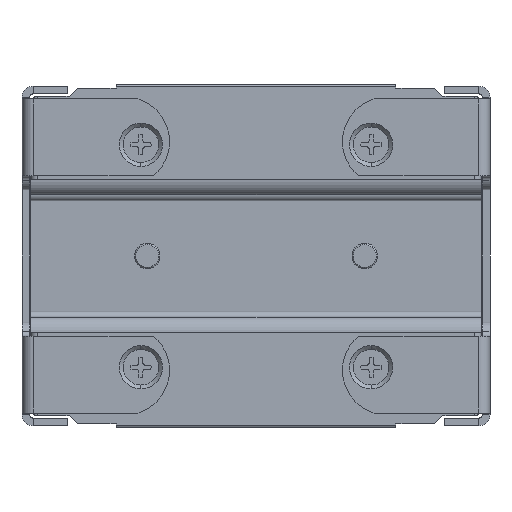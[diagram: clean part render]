
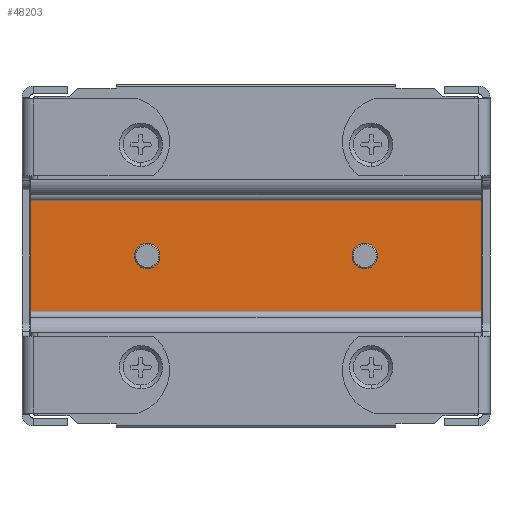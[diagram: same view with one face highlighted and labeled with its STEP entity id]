
A CAD part, front view. The second image highlights one B-rep face of the part: STEP entity #48203.
In plain terms, the highlighted planar face has unit normal (0, -1, 0).
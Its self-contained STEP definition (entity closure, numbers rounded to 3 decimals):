
#2273 = CARTESIAN_POINT ( 'NONE',  ( -58.55, 7.5, -1. ) ) ;
#2274 = CARTESIAN_POINT ( 'NONE',  ( -58.55, 7.5, 1. ) ) ;
#2275 = DIRECTION ( 'NONE',  ( 0., 0., 1. ) ) ;
#2276 = DIRECTION ( 'NONE',  ( 0., -1., 0. ) ) ;
#2277 = CARTESIAN_POINT ( 'NONE',  ( -58.55, 7.5, 0. ) ) ;
#2278 = AXIS2_PLACEMENT_3D ( 'NONE', #2277, #2276, #2275 ) ;
#2279 = CIRCLE ( 'NONE', #2278, 1. ) ;
#2467 = CARTESIAN_POINT ( 'NONE',  ( -41.45, 7.5, -1. ) ) ;
#2486 = DIRECTION ( 'NONE',  ( 0., 0., 1. ) ) ;
#2487 = DIRECTION ( 'NONE',  ( 0., -1., 0. ) ) ;
#2488 = CARTESIAN_POINT ( 'NONE',  ( -41.45, 7.5, 0. ) ) ;
#2489 = AXIS2_PLACEMENT_3D ( 'NONE', #2488, #2487, #2486 ) ;
#2490 = CIRCLE ( 'NONE', #2489, 1. ) ;
#2504 = CARTESIAN_POINT ( 'NONE',  ( -41.45, 7.5, 1. ) ) ;
#20626 = CARTESIAN_POINT ( 'NONE',  ( -32.3, 7.5, 5.7 ) ) ;
#22071 = CARTESIAN_POINT ( 'NONE',  ( -32.3, 7.5, -5.7 ) ) ;
#22624 = DIRECTION ( 'NONE',  ( 0., 0., 1. ) ) ;
#22625 = VECTOR ( 'NONE', #22624, 1000. ) ;
#22626 = CARTESIAN_POINT ( 'NONE',  ( -32.3, 7.5, -6. ) ) ;
#22627 = LINE ( 'NONE', #22626, #22625 ) ;
#23992 = DIRECTION ( 'NONE',  ( 0., 0., -1. ) ) ;
#23993 = VECTOR ( 'NONE', #23992, 1000. ) ;
#23994 = CARTESIAN_POINT ( 'NONE',  ( -67.7, 7.5, -6. ) ) ;
#23995 = LINE ( 'NONE', #23994, #23993 ) ;
#23996 = CARTESIAN_POINT ( 'NONE',  ( -67.7, 7.5, -5.7 ) ) ;
#24106 = CARTESIAN_POINT ( 'NONE',  ( -67.7, 7.5, 5.7 ) ) ;
#26362 = DIRECTION ( 'NONE',  ( 0., 0., 1. ) ) ;
#26363 = DIRECTION ( 'NONE',  ( 0., -1., 0. ) ) ;
#26364 = CARTESIAN_POINT ( 'NONE',  ( -41.45, 7.5, 0. ) ) ;
#26365 = AXIS2_PLACEMENT_3D ( 'NONE', #26364, #26363, #26362 ) ;
#26366 = CIRCLE ( 'NONE', #26365, 1. ) ;
#29607 = CARTESIAN_POINT ( 'NONE',  ( -58.55, 7.5, 0. ) ) ;
#29608 = AXIS2_PLACEMENT_3D ( 'NONE', #29607, #29676, #29675 ) ;
#29609 = CIRCLE ( 'NONE', #29608, 1. ) ;
#29675 = DIRECTION ( 'NONE',  ( 0., 0., 1. ) ) ;
#29676 = DIRECTION ( 'NONE',  ( 0., -1., 0. ) ) ;
#30728 = CARTESIAN_POINT ( 'NONE',  ( -32.3, 7.5, -5.7 ) ) ;
#30773 = DIRECTION ( 'NONE',  ( 0., 0., 1. ) ) ;
#30774 = DIRECTION ( 'NONE',  ( 0., 1., 0. ) ) ;
#30775 = CARTESIAN_POINT ( 'NONE',  ( -34.25, 7.5, 0. ) ) ;
#30776 = AXIS2_PLACEMENT_3D ( 'NONE', #30775, #30774, #30773 ) ;
#30777 = PLANE ( 'NONE',  #30776 ) ;
#30778 = FACE_OUTER_BOUND ( 'NONE', #48197, .T. ) ;
#30779 = FACE_BOUND ( 'NONE', #48205, .T. ) ;
#30780 = FACE_BOUND ( 'NONE', #48067, .T. ) ;
#30781 = DIRECTION ( 'NONE',  ( -1., 0., 0. ) ) ;
#30782 = VECTOR ( 'NONE', #30781, 1000. ) ;
#30783 = CARTESIAN_POINT ( 'NONE',  ( -67.7, 7.5, 5.7 ) ) ;
#30784 = LINE ( 'NONE', #30783, #30782 ) ;
#30785 = DIRECTION ( 'NONE',  ( 1., 0., 0. ) ) ;
#30786 = VECTOR ( 'NONE', #30785, 1000. ) ;
#30798 = LINE ( 'NONE', #30728, #30786 ) ;
#45317 = VERTEX_POINT ( 'NONE', #20626 ) ;
#45581 = VERTEX_POINT ( 'NONE', #22071 ) ;
#45769 = EDGE_CURVE ( 'NONE', #45581, #45317, #22627, .T. ) ;
#46245 = VERTEX_POINT ( 'NONE', #23996 ) ;
#46247 = EDGE_CURVE ( 'NONE', #46301, #46245, #23995, .T. ) ;
#46301 = VERTEX_POINT ( 'NONE', #24106 ) ;
#46939 = EDGE_CURVE ( 'NONE', #49687, #49699, #26366, .T. ) ;
#47793 = EDGE_CURVE ( 'NONE', #49579, #49578, #29609, .T. ) ;
#48066 = ORIENTED_EDGE ( 'NONE', *, *, #49676, .F. ) ;
#48067 = EDGE_LOOP ( 'NONE', ( #48066, #48206 ) ) ;
#48191 = ORIENTED_EDGE ( 'NONE', *, *, #47793, .F. ) ;
#48192 = ORIENTED_EDGE ( 'NONE', *, *, #46247, .T. ) ;
#48194 = ORIENTED_EDGE ( 'NONE', *, *, #48195, .T. ) ;
#48195 = EDGE_CURVE ( 'NONE', #46245, #45581, #30798, .T. ) ;
#48196 = ORIENTED_EDGE ( 'NONE', *, *, #49577, .F. ) ;
#48197 = EDGE_LOOP ( 'NONE', ( #48192, #48194, #48201, #48198 ) ) ;
#48198 = ORIENTED_EDGE ( 'NONE', *, *, #48199, .T. ) ;
#48199 = EDGE_CURVE ( 'NONE', #45317, #46301, #30784, .T. ) ;
#48201 = ORIENTED_EDGE ( 'NONE', *, *, #45769, .T. ) ;
#48203 = ADVANCED_FACE ( 'NONE', ( #30780, #30779, #30778 ), #30777, .F. ) ;
#48205 = EDGE_LOOP ( 'NONE', ( #48196, #48191 ) ) ;
#48206 = ORIENTED_EDGE ( 'NONE', *, *, #46939, .F. ) ;
#49577 = EDGE_CURVE ( 'NONE', #49578, #49579, #2279, .T. ) ;
#49578 = VERTEX_POINT ( 'NONE', #2274 ) ;
#49579 = VERTEX_POINT ( 'NONE', #2273 ) ;
#49676 = EDGE_CURVE ( 'NONE', #49699, #49687, #2490, .T. ) ;
#49687 = VERTEX_POINT ( 'NONE', #2467 ) ;
#49699 = VERTEX_POINT ( 'NONE', #2504 ) ;
